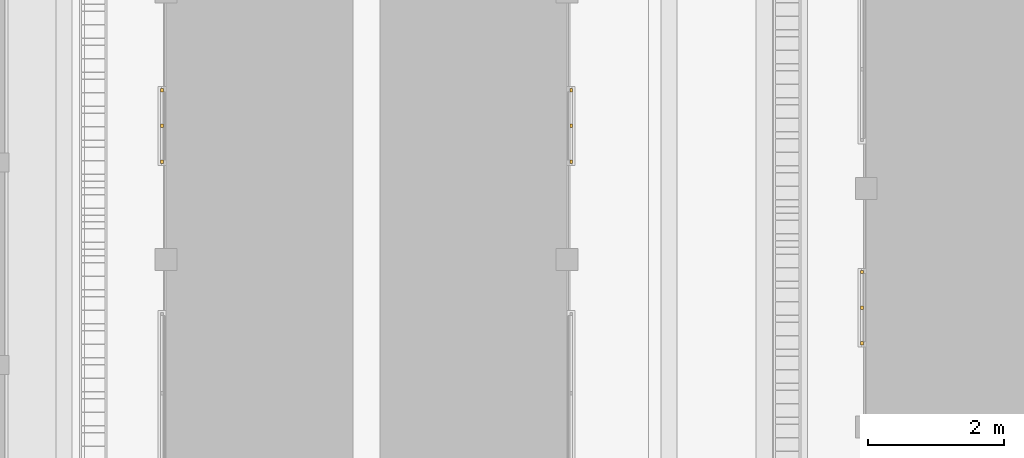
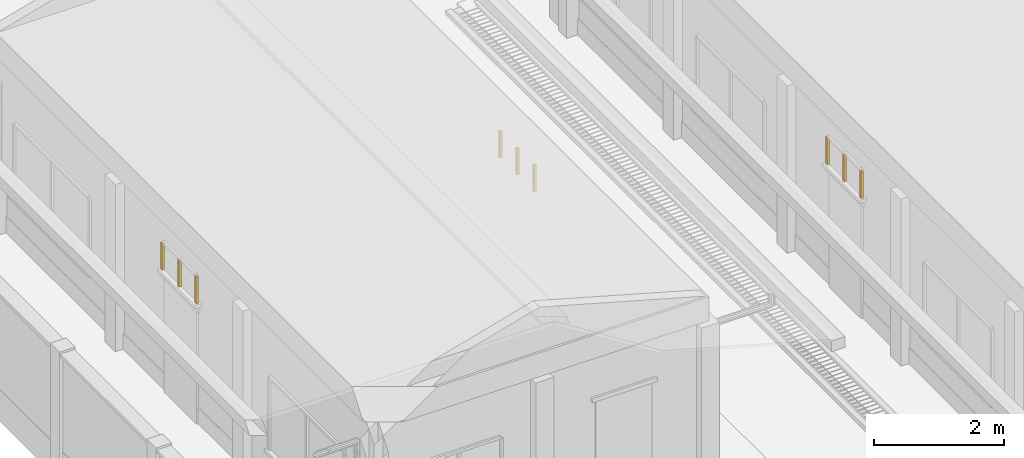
# One storey, part 76 of 166: 9 windows.
"""IFC2X3 building model written with IfcOpenShell, lengths in metres."""

from ifc_helpers import new_model, si_unit, origin, origin_with_axes, place, context, subcontext, project, spatial, faceted_brep, element, save


model = new_model("IFC2X3")

# Units and contexts
model_context = context("Model", 3, precision=1e-05, world=origin_with_axes())
body_context = subcontext(model_context, "Body", "Model", "MODEL_VIEW")
ifc_project = project(units=[si_unit("LENGTHUNIT", "METRE"), si_unit("AREAUNIT", "SQUARE_METRE"), si_unit("VOLUMEUNIT", "CUBIC_METRE"), si_unit("PLANEANGLEUNIT", "RADIAN")], contexts=[model_context])

# Site, building, storey
site_placement = place(None, origin_with_axes())
site = spatial("IfcSite", under=ifc_project, at=site_placement, Name="Predio Los Mangos - Morales, San Martín", CompositionType="ELEMENT")
building_placement = place(site_placement, origin())
building = spatial("IfcBuilding", under=site, at=building_placement, Name="Hogar de Refugio Temporal", CompositionType="ELEMENT")
storey_placement = place(building_placement, origin())
storey = spatial("IfcBuildingStorey", under=building, at=storey_placement, Name="NIVEL 1 (NPT +0.00)", CompositionType="ELEMENT", Elevation=0.0)

# Windows
window_1_placement = place(storey_placement, origin())
element("IfcWindow", 1, at=window_1_placement, inside=storey, Name="E-04_vt7_m", ObjectType="Ventana", context=body_context, shape_type="Brep", body=[
    faceted_brep([(13.72, 77.875, 2.45), (13.72, 77.925, 2.45), (13.76, 77.925, 2.45), (13.76, 77.875, 2.45), (13.72, 77.875, 2.95), (13.76, 77.875, 2.95), (13.76, 77.925, 2.95), (13.72, 77.925, 2.95)], [[[0, 1, 2, 3]], [[4, 5, 6, 7]], [[0, 3, 5, 4]], [[3, 2, 6, 5]], [[2, 1, 7, 6]], [[1, 0, 4, 7]]]),
])
window_2_placement = place(storey_placement, origin())
element("IfcWindow", 2, at=window_2_placement, inside=storey, Name="E-04_vt7_m", ObjectType="Ventana", context=body_context, shape_type="Brep", body=[
    faceted_brep([(13.72, 78.925, 2.45), (13.72, 78.975, 2.45), (13.76, 78.975, 2.45), (13.76, 78.925, 2.45), (13.72, 78.925, 2.95), (13.76, 78.925, 2.95), (13.76, 78.975, 2.95), (13.72, 78.975, 2.95)], [[[0, 1, 2, 3]], [[4, 5, 6, 7]], [[0, 3, 5, 4]], [[3, 2, 6, 5]], [[2, 1, 7, 6]], [[1, 0, 4, 7]]]),
])
window_3_placement = place(storey_placement, origin())
element("IfcWindow", 3, at=window_3_placement, inside=storey, Name="E-04_vt7_m", ObjectType="Ventana", context=body_context, shape_type="Brep", body=[
    faceted_brep([(13.72, 78.4, 2.45), (13.72, 78.45, 2.45), (13.76, 78.45, 2.45), (13.76, 78.4, 2.45), (13.72, 78.4, 2.95), (13.76, 78.4, 2.95), (13.76, 78.45, 2.95), (13.72, 78.45, 2.95)], [[[0, 1, 2, 3]], [[4, 5, 6, 7]], [[0, 3, 5, 4]], [[3, 2, 6, 5]], [[2, 1, 7, 6]], [[1, 0, 4, 7]]]),
])
window_4_placement = place(storey_placement, origin())
element("IfcWindow", 4, at=window_4_placement, inside=storey, Name="E-09_vt1_m", ObjectType="Ventana", context=body_context, shape_type="Brep", body=[
    faceted_brep([(3.42, 80.55, 2.45), (3.42, 80.6, 2.45), (3.46, 80.6, 2.45), (3.46, 80.55, 2.45), (3.42, 80.55, 2.95), (3.46, 80.55, 2.95), (3.46, 80.6, 2.95), (3.42, 80.6, 2.95)], [[[0, 1, 2, 3]], [[4, 5, 6, 7]], [[0, 3, 5, 4]], [[3, 2, 6, 5]], [[2, 1, 7, 6]], [[1, 0, 4, 7]]]),
])
window_5_placement = place(storey_placement, origin())
element("IfcWindow", 5, at=window_5_placement, inside=storey, Name="E-09_vt1_m", ObjectType="Ventana", context=body_context, shape_type="Brep", body=[
    faceted_brep([(3.42, 81.6, 2.45), (3.42, 81.65, 2.45), (3.46, 81.65, 2.45), (3.46, 81.6, 2.45), (3.42, 81.6, 2.95), (3.46, 81.6, 2.95), (3.46, 81.65, 2.95), (3.42, 81.65, 2.95)], [[[0, 1, 2, 3]], [[4, 5, 6, 7]], [[0, 3, 5, 4]], [[3, 2, 6, 5]], [[2, 1, 7, 6]], [[1, 0, 4, 7]]]),
])
window_6_placement = place(storey_placement, origin())
element("IfcWindow", 6, at=window_6_placement, inside=storey, Name="E-09_vt1_m", ObjectType="Ventana", context=body_context, shape_type="Brep", body=[
    faceted_brep([(3.42, 81.075, 2.45), (3.42, 81.125, 2.45), (3.46, 81.125, 2.45), (3.46, 81.075, 2.45), (3.42, 81.075, 2.95), (3.46, 81.075, 2.95), (3.46, 81.125, 2.95), (3.42, 81.125, 2.95)], [[[0, 1, 2, 3]], [[4, 5, 6, 7]], [[0, 3, 5, 4]], [[3, 2, 6, 5]], [[2, 1, 7, 6]], [[1, 0, 4, 7]]]),
])
window_7_placement = place(storey_placement, origin())
element("IfcWindow", 7, at=window_7_placement, inside=storey, Name="E-09_vt1_m", ObjectType="Ventana", context=body_context, shape_type="Brep", body=[
    faceted_brep([(9.44, 80.55, 2.45), (9.44, 80.6, 2.45), (9.48, 80.6, 2.45), (9.48, 80.55, 2.45), (9.44, 80.55, 2.95), (9.48, 80.55, 2.95), (9.48, 80.6, 2.95), (9.44, 80.6, 2.95)], [[[0, 1, 2, 3]], [[4, 5, 6, 7]], [[0, 3, 5, 4]], [[3, 2, 6, 5]], [[2, 1, 7, 6]], [[1, 0, 4, 7]]]),
])
window_8_placement = place(storey_placement, origin())
element("IfcWindow", 8, at=window_8_placement, inside=storey, Name="E-09_vt1_m", ObjectType="Ventana", context=body_context, shape_type="Brep", body=[
    faceted_brep([(9.44, 81.6, 2.45), (9.44, 81.65, 2.45), (9.48, 81.65, 2.45), (9.48, 81.6, 2.45), (9.44, 81.6, 2.95), (9.48, 81.6, 2.95), (9.48, 81.65, 2.95), (9.44, 81.65, 2.95)], [[[0, 1, 2, 3]], [[4, 5, 6, 7]], [[0, 3, 5, 4]], [[3, 2, 6, 5]], [[2, 1, 7, 6]], [[1, 0, 4, 7]]]),
])
window_9_placement = place(storey_placement, origin())
element("IfcWindow", 9, at=window_9_placement, inside=storey, Name="E-09_vt1_m", ObjectType="Ventana", context=body_context, shape_type="Brep", body=[
    faceted_brep([(9.44, 81.075, 2.45), (9.44, 81.125, 2.45), (9.48, 81.125, 2.45), (9.48, 81.075, 2.45), (9.44, 81.075, 2.95), (9.48, 81.075, 2.95), (9.48, 81.125, 2.95), (9.44, 81.125, 2.95)], [[[0, 1, 2, 3]], [[4, 5, 6, 7]], [[0, 3, 5, 4]], [[3, 2, 6, 5]], [[2, 1, 7, 6]], [[1, 0, 4, 7]]]),
])

save(model, "model.ifc")
